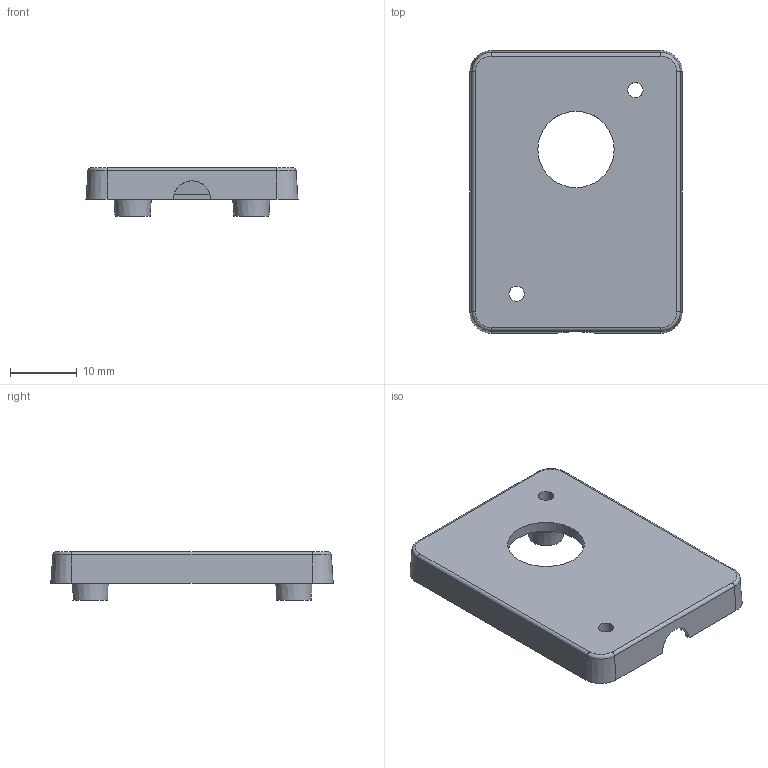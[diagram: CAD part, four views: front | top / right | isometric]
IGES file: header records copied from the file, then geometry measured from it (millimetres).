
Global section: file name: Filename.iges; native system: Open CASCADE 7.6; preprocessor: Open CASCADE IGES processor 7.6; date: 20231122.141217; units: millimetre
Bounding box: 31.75 x 42.29 x 7.3 mm (x, y, z)
Volume: 2693.5 mm3; surface area: 3765 mm2
Topology: 1 solids, 1 shells, 57 faces, 139 edges, 86 vertices
Faces by surface type: plane 19, cylinder 16, cone 12, torus 10
Full cylindrical faces by diameter (mm): 2.286 x2, 11.43 x1
